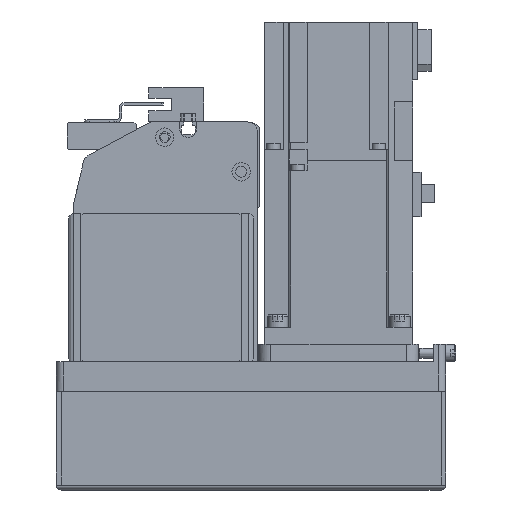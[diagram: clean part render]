
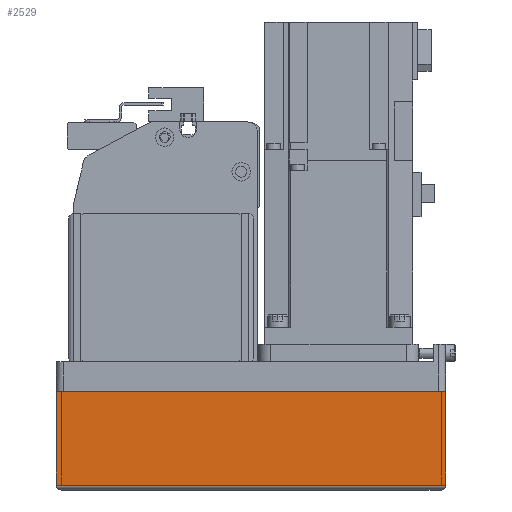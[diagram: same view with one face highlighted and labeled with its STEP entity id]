
A CAD part, left-side view. The second image highlights one B-rep face of the part: STEP entity #2529.
In plain terms, the highlighted planar face has unit normal (-1, 0, 0) as drawn and (0, 1, 0) by its records, which use the part's own axes.
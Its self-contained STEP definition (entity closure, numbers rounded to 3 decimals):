
#2529 = ADVANCED_FACE( '', ( #5495 ), #5496, .T. );
#5495 = FACE_OUTER_BOUND( '', #8802, .T. );
#5496 = PLANE( '', #8803 );
#8802 = EDGE_LOOP( '', ( #15928, #15929, #15930, #15931 ) );
#8803 = AXIS2_PLACEMENT_3D( '', #15932, #15933, #15934 );
#15928 = ORIENTED_EDGE( '', *, *, #19741, .F. );
#15929 = ORIENTED_EDGE( '', *, *, #20178, .F. );
#15930 = ORIENTED_EDGE( '', *, *, #20593, .T. );
#15931 = ORIENTED_EDGE( '', *, *, #21377, .T. );
#15932 = CARTESIAN_POINT( '', ( -158., 39., -50. ) );
#15933 = DIRECTION( '', ( 0., 1., 0. ) );
#15934 = DIRECTION( '', ( 0., 0., 1. ) );
#19741 = EDGE_CURVE( '', #23953, #22575, #23954, .T. );
#20178 = EDGE_CURVE( '', #24659, #23953, #24661, .T. );
#20593 = EDGE_CURVE( '', #24659, #24493, #25311, .T. );
#21377 = EDGE_CURVE( '', #24493, #22575, #26386, .T. );
#22575 = VERTEX_POINT( '', #28061 );
#23953 = VERTEX_POINT( '', #30130 );
#23954 = LINE( '', #30131, #30132 );
#24493 = VERTEX_POINT( '', #30925 );
#24659 = VERTEX_POINT( '', #31144 );
#24661 = LINE( '', #31146, #31147 );
#25311 = LINE( '', #32087, #32088 );
#26386 = LINE( '', #33724, #33725 );
#28061 = CARTESIAN_POINT( '', ( 0., 39., -12.1 ) );
#30130 = CARTESIAN_POINT( '', ( 0., 39., -50. ) );
#30131 = CARTESIAN_POINT( '', ( 0., 39., -50. ) );
#30132 = VECTOR( '', #36189, 1000. );
#30925 = CARTESIAN_POINT( '', ( -158., 39., -12.1 ) );
#31144 = CARTESIAN_POINT( '', ( -158., 39., -50. ) );
#31146 = CARTESIAN_POINT( '', ( -158., 39., -50. ) );
#31147 = VECTOR( '', #36759, 1000. );
#32087 = CARTESIAN_POINT( '', ( -158., 39., -50. ) );
#32088 = VECTOR( '', #37288, 1000. );
#33724 = CARTESIAN_POINT( '', ( -158., 39., -12.1 ) );
#33725 = VECTOR( '', #38187, 1000. );
#36189 = DIRECTION( '', ( 0., 0., 1. ) );
#36759 = DIRECTION( '', ( 1., 0., 0. ) );
#37288 = DIRECTION( '', ( 0., 0., 1. ) );
#38187 = DIRECTION( '', ( 1., 0., 0. ) );
